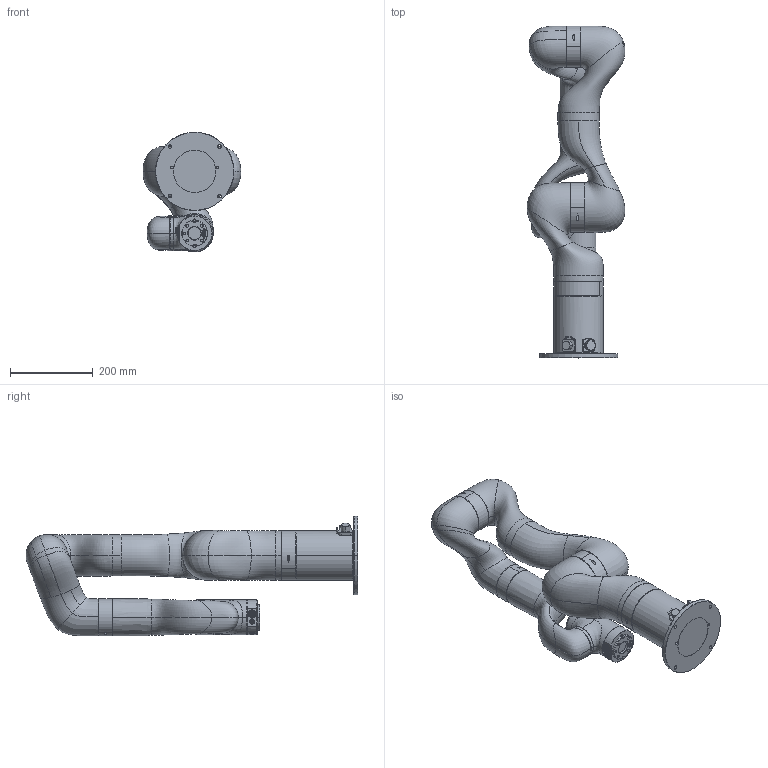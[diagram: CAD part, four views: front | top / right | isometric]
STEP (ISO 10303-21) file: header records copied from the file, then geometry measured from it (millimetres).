
FILE_DESCRIPTION (( 'STEP AP203' ), '1' );
FILE_NAME ('UFACTORY 850(FX8510)-20260626.STEP', '2026-06-26T09:26:30', ( '' ), ( '' ), 'SwSTEP 2.0', 'SolidWorks 2016', '' );
FILE_SCHEMA (( 'CONFIG_CONTROL_DESIGN' ));
Length unit declared in the file: metre
Products named in the file (8): FX85_P05; FX85_P03; FX85_P04; FX85_P02; FX85_P06; UFACTORY 850(FX8510)-20260626; FX85_P07; FX85_P01
Assembly tree (7 placements, depth 2):
  UFACTORY 850(FX8510)-20260626
    FX85_P01
    FX85_P02
    FX85_P03
    FX85_P04
    FX85_P05
    FX85_P06
    FX85_P07
Bounding box: 237.19 x 804.11 x 289.98 mm (x, y, z)
Volume: 13135174.8 mm3; surface area: 799476.4 mm2
Topology: 25 solids, 32 shells, 1623 faces, 4328 edges, 2856 vertices
Faces by surface type: plane 484, cylinder 469, bspline 358, cone 296, torus 16
Entity records: 141014 total; most frequent: CARTESIAN_POINT 104158, ORIENTED_EDGE 8548, DIRECTION 5699, EDGE_CURVE 4274, VERTEX_POINT 2856, AXIS2_PLACEMENT_3D 2105, B_SPLINE_CURVE_WITH_KNOTS 1899, EDGE_LOOP 1794
